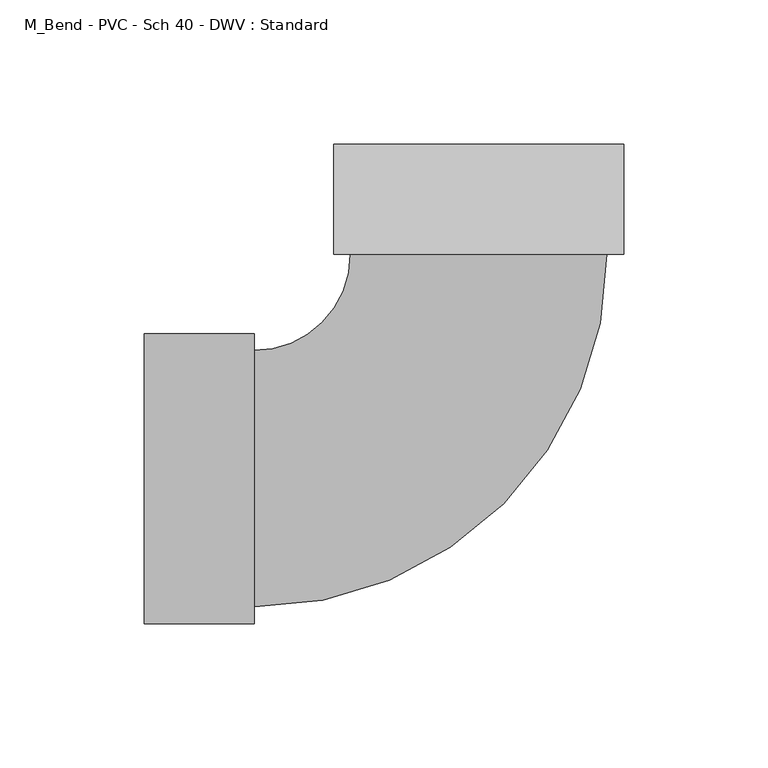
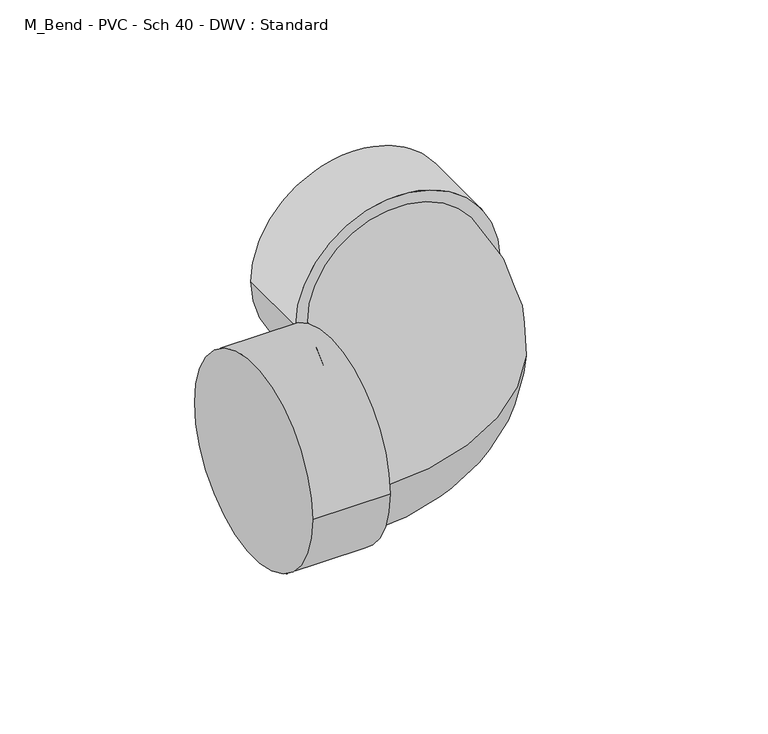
"""IFC4 building model written with IfcOpenShell, lengths in millimetres: pipe fitting geometry, M_Bend - PVC - Sch 40 - DWV : Standard."""

from ifc_helpers import new_model, si_unit, point, frame, origin, place, context, project, spatial, circle_curve, ellipse_curve, trimmed, source, transform, mapped, element, save
from ifc_brep_helpers import plane_surface, cylinder_surface, revolved_surface, advanced_brep


def m_bend_pvc_sch_40_dwv_standard_db402317(model_context):
    return source(origin(), model_context, "Body", "AdvancedBrep", [
        advanced_brep(
        [(-115.9002, -50.2666, 0.0), (-115.9002, 50.2666, 0.0), (-77.8002, -50.2666, 0.0), (-77.8002, 50.2666, 0.0), (-77.8002, -44.45, 0.0), (-77.8002, 44.45, 0.0), (-44.4506372, 77.7998359, 0.0), (44.4493628, 77.8005641, 0.0), (50.2659628, 77.8006117, 0.0), (-50.2672372, 77.7997883, 0.0), (50.2656507, 115.9006117, 0.0), (-50.2675493, 115.8997883, 0.0)],
        [
            (0, 1, circle_curve(frame((-115.9002, 0.0, 0.0), z_axis=(-1.0, 0.0, 0.0), x_axis=(0.0, 1.0, 0.0)), 50.2666)),
            (1, 0, circle_curve(frame((-115.9002, 0.0, 0.0), z_axis=(-1.0, 0.0, 0.0), x_axis=(0.0, 1.0, 0.0)), 50.2666)),
            (2, 3, circle_curve(frame((-77.8002, 0.0, 0.0), z_axis=(1.0, 0.0, 0.0), x_axis=(0.0, 1.0, 0.0)), 50.2666)),
            (3, 2, circle_curve(frame((-77.8002, 0.0, 0.0), z_axis=(1.0, 0.0, 0.0), x_axis=(0.0, 1.0, 0.0)), 50.2666)),
            (4, 5, circle_curve(frame((-77.8002, 0.0, 0.0), z_axis=(-1.0, 0.0, 0.0), x_axis=(0.0, 1.0, 0.0)), 44.45)),
            (5, 4, circle_curve(frame((-77.8002, 0.0, 0.0), z_axis=(-1.0, 0.0, 0.0), x_axis=(0.0, 1.0, 0.0)), 44.45)),
            (0, 2),
            (3, 1),
            (6, 5, circle_curve(frame((-77.8002, 77.7995628, 0.0), z_axis=(0.0, 0.0, -1.0), x_axis=(0.0, -1.0, 0.0)), 33.3495628)),
            (4, 7, circle_curve(frame((-77.8002, 77.7995628, 0.0), z_axis=(0.0, 0.0, 1.0), x_axis=(0.0, -1.0, 0.0)), 122.2495628)),
            (7, 6, circle_curve(frame((-0.0006372, 77.8002, 0.0), z_axis=(8.190618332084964e-06, -0.9999999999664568, 0.0), x_axis=(-0.9999999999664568, -8.190618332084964e-06, 0.0)), 44.45)),
            (6, 7, circle_curve(frame((-0.0006372, 77.8002, 0.0), z_axis=(8.190618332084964e-06, -0.9999999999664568, 0.0), x_axis=(-0.9999999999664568, -8.190618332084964e-06, 0.0)), 44.45)),
            (8, 9, circle_curve(frame((-0.0006372, 77.8002, 0.0), z_axis=(8.19061833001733e-06, -0.9999999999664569, 0.0), x_axis=(-0.9999999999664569, -8.19061833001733e-06, 0.0)), 50.2666)),
            (9, 8, circle_curve(frame((-0.0006372, 77.8002, 0.0), z_axis=(8.19061833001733e-06, -0.9999999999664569, 0.0), x_axis=(-0.9999999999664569, -8.19061833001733e-06, 0.0)), 50.2666)),
            (10, 11, circle_curve(frame((-0.0009493, 115.9002, 0.0), z_axis=(-8.19061833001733e-06, 0.9999999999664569, 0.0), x_axis=(-0.9999999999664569, -8.19061833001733e-06, 0.0)), 50.2666)),
            (11, 10, circle_curve(frame((-0.0009493, 115.9002, 0.0), z_axis=(-8.19061833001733e-06, 0.9999999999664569, 0.0), x_axis=(-0.9999999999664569, -8.19061833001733e-06, 0.0)), 50.2666)),
            (8, 10),
            (11, 9),
        ],
        [
            plane_surface(frame((-115.9002, 0.0, 0.0), z_axis=(-1.0, 0.0, 0.0), x_axis=(0.0, 0.0, 1.0))),
            plane_surface(frame((-77.8002, 0.0, 0.0), z_axis=(1.0, 0.0, 0.0), x_axis=(0.0, 0.0, 1.0))),
            cylinder_surface(frame((-115.9002, 0.0, 0.0), z_axis=(-1.0, 0.0, 0.0), x_axis=(0.0, 1.0, 0.0)), 50.2666),
            revolved_surface(trimmed(ellipse_curve(frame((-77.8002, 0.0, 0.0), z_axis=(-1.0, 0.0, 0.0), x_axis=(0.0, 1.0, 0.0)), 44.45, 44.45), [point((-77.8002, -44.45, 0.0))], [point((-77.8002, 44.45, 0.0))], True, "CARTESIAN"), (-77.8002, 77.7995628, 0.0), (0.0, 0.0, 1.0)),
            revolved_surface(trimmed(ellipse_curve(frame((-77.8002, 0.0, 0.0), z_axis=(-1.0, 0.0, 0.0), x_axis=(0.0, 1.0, 0.0)), 44.45, 44.45), [point((-77.8002, 44.45, 0.0))], [point((-77.8002, -44.45, 0.0))], True, "CARTESIAN"), (-77.8002, 77.7995628, 0.0), (0.0, 0.0, 1.0)),
            plane_surface(frame((-0.0006372, 77.8002, 0.0), z_axis=(8.190618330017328e-06, -0.9999999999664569, 0.0), x_axis=(0.0, 0.0, 1.0))),
            plane_surface(frame((-0.0009493, 115.9002, 0.0), z_axis=(-8.190618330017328e-06, 0.9999999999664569, 0.0), x_axis=(0.0, 0.0, 1.0))),
            cylinder_surface(frame((-0.0006372, 77.8002, 0.0), z_axis=(8.19061833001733e-06, -0.9999999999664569, 0.0), x_axis=(-0.9999999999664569, -8.19061833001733e-06, 0.0)), 50.2666),
        ],
        [
            (0, [[1, 2]]),
            (1, [[3, 4], [5, 6]]),
            (2, [[-1, 7, -4, 8]]),
            (2, [[-2, -8, -3, -7]]),
            (3, [[9, -5, 10, 11]]),
            (4, [[-9, 12, -10, -6]]),
            (5, [[13, 14], [-11, -12]]),
            (6, [[15, 16]]),
            (7, [[-13, 17, -16, 18]]),
            (7, [[-14, -18, -15, -17]]),
        ],
    ),
    ])


if __name__ == "__main__":
    model = new_model("IFC4")
    model_context = context("Model", 3, world=origin())
    ifc_project = project(units=[si_unit("LENGTHUNIT", "METRE", prefix="MILLI")], contexts=[model_context])
    site = spatial("IfcSite", under=ifc_project)
    building = spatial("IfcBuilding", under=site)
    placement = place(None, origin())
    m_bend_pvc_sch_40_dwv_standard_shape = m_bend_pvc_sch_40_dwv_standard_db402317(model_context)
    element("IfcPipeFitting", 1, ObjectType="M_Bend - PVC - Sch 40 - DWV : Standard", at=placement, inside=building, context=model_context, shape_type="MappedRepresentation", body=[
        mapped(m_bend_pvc_sch_40_dwv_standard_shape, transform((0.0, 0.0, 0.0), x_axis=(1.0, 0.0, 0.0), y_axis=(0.0, 1.0, 0.0), z_axis=(0.0, 0.0, 1.0))),
    ])
    save(model, "model.ifc")
